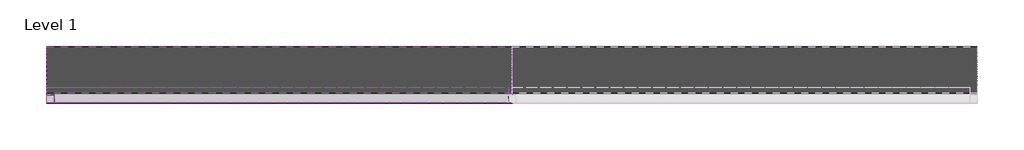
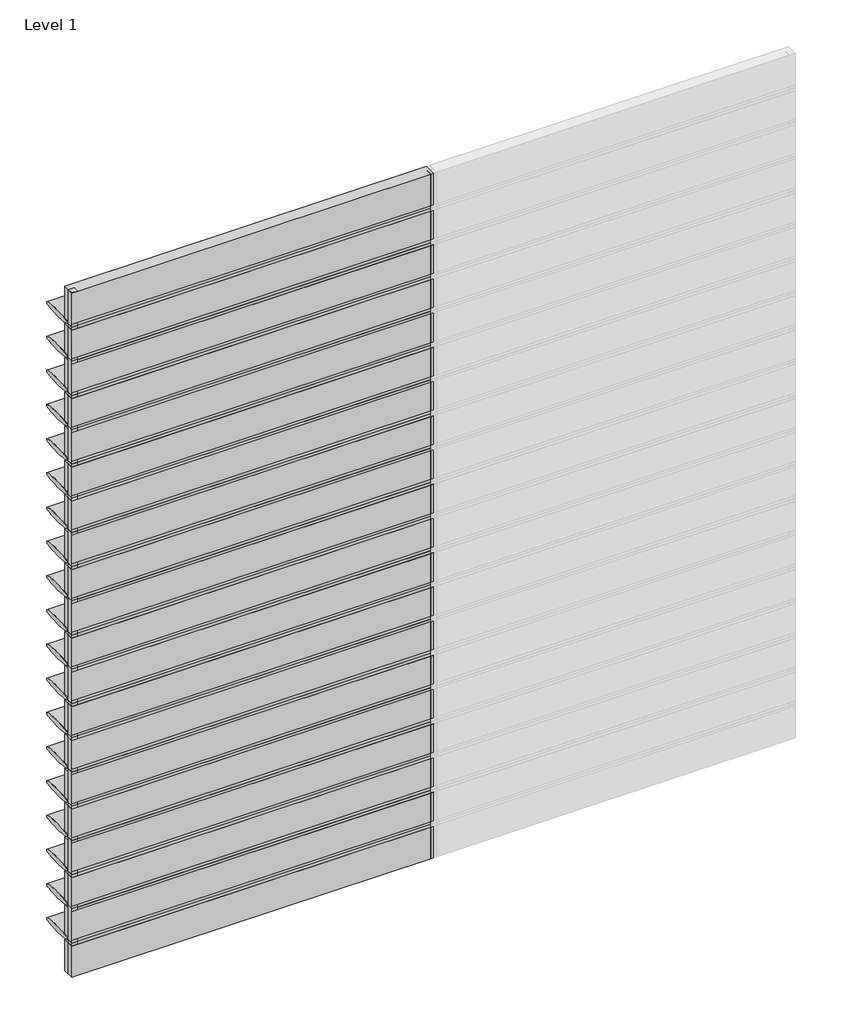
# One storey, part 1 of 2: 49 members, 40 plates.
"""IFC4 building model written with IfcOpenShell, lengths in millimetres."""

from ifc_helpers import new_model, si_unit, origin, place, context, project, spatial, transform, mapped, element, save
from components import rectangular_mullion_489e5dd7, rectangular_mullion_bcb65166, empty_system_panel_empty_2f02a19b, empty_system_panel_empty_759a0c1d, empty_system_panel_empty_080f249c

model = new_model("IFC4")

# Units and contexts
model_context = context("Model", 3, world=origin())
ifc_project = project(units=[si_unit("LENGTHUNIT", "METRE", prefix="MILLI")], contexts=[model_context])

# Site, building, storey
site = spatial("IfcSite", under=ifc_project)
building = spatial("IfcBuilding", under=site)
storey = spatial("IfcBuildingStorey", under=building, Name="Level 1", Elevation=0.0)

# Members
placement = place(None, origin())
rectangular_mullion_shape = rectangular_mullion_489e5dd7(model_context)
element("IfcMember", 1, ObjectType="Rectangular Mullion : RSen_21_CWM_blade - 300 ellips - 0°_gen_duco projects", at=placement, inside=storey, context=model_context, shape_type="MappedRepresentation", body=[
    mapped(rectangular_mullion_shape, transform((3000.0, 3000.0, 300.0), x_axis=(0.0, 0.0, 1.0), y_axis=(0.0, 1.0, 0.0), z_axis=(-1.0, 0.0, 0.0))),
])
element("IfcMember", 2, ObjectType="Rectangular Mullion : RSen_21_CWM_blade - 300 ellips - 0°_gen_duco projects", at=placement, inside=storey, context=model_context, shape_type="MappedRepresentation", body=[
    mapped(rectangular_mullion_shape, transform((3000.0, 3000.0, 600.0), x_axis=(0.0, 0.0, 1.0), y_axis=(0.0, 1.0, 0.0), z_axis=(-1.0, 0.0, 0.0))),
])
element("IfcMember", 3, ObjectType="Rectangular Mullion : RSen_21_CWM_blade - 300 ellips - 0°_gen_duco projects", at=placement, inside=storey, context=model_context, shape_type="MappedRepresentation", body=[
    mapped(rectangular_mullion_shape, transform((3000.0, 3000.0, 900.0), x_axis=(0.0, 0.0, 1.0), y_axis=(0.0, 1.0, 0.0), z_axis=(-1.0, 0.0, 0.0))),
])
element("IfcMember", 4, ObjectType="Rectangular Mullion : RSen_21_CWM_blade - 300 ellips - 0°_gen_duco projects", at=placement, inside=storey, context=model_context, shape_type="MappedRepresentation", body=[
    mapped(rectangular_mullion_shape, transform((3000.0, 3000.0, 1200.0), x_axis=(0.0, 0.0, 1.0), y_axis=(0.0, 1.0, 0.0), z_axis=(-1.0, 0.0, 0.0))),
])
element("IfcMember", 5, ObjectType="Rectangular Mullion : RSen_21_CWM_blade - 300 ellips - 0°_gen_duco projects", at=placement, inside=storey, context=model_context, shape_type="MappedRepresentation", body=[
    mapped(rectangular_mullion_shape, transform((3000.0, 3000.0, 1500.0), x_axis=(0.0, 0.0, 1.0), y_axis=(0.0, 1.0, 0.0), z_axis=(-1.0, 0.0, 0.0))),
])
element("IfcMember", 6, ObjectType="Rectangular Mullion : RSen_21_CWM_blade - 300 ellips - 0°_gen_duco projects", at=placement, inside=storey, context=model_context, shape_type="MappedRepresentation", body=[
    mapped(rectangular_mullion_shape, transform((3000.0, 3000.0, 1800.0), x_axis=(0.0, 0.0, 1.0), y_axis=(0.0, 1.0, 0.0), z_axis=(-1.0, 0.0, 0.0))),
])
element("IfcMember", 7, ObjectType="Rectangular Mullion : RSen_21_CWM_blade - 300 ellips - 0°_gen_duco projects", at=placement, inside=storey, context=model_context, shape_type="MappedRepresentation", body=[
    mapped(rectangular_mullion_shape, transform((3000.0, 3000.0, 2100.0), x_axis=(0.0, 0.0, 1.0), y_axis=(0.0, 1.0, 0.0), z_axis=(-1.0, 0.0, 0.0))),
])
element("IfcMember", 8, ObjectType="Rectangular Mullion : RSen_21_CWM_blade - 300 ellips - 0°_gen_duco projects", at=placement, inside=storey, context=model_context, shape_type="MappedRepresentation", body=[
    mapped(rectangular_mullion_shape, transform((3000.0, 3000.0, 2400.0), x_axis=(0.0, 0.0, 1.0), y_axis=(0.0, 1.0, 0.0), z_axis=(-1.0, 0.0, 0.0))),
])
element("IfcMember", 9, ObjectType="Rectangular Mullion : RSen_21_CWM_blade - 300 ellips - 0°_gen_duco projects", at=placement, inside=storey, context=model_context, shape_type="MappedRepresentation", body=[
    mapped(rectangular_mullion_shape, transform((3000.0, 3000.0, 2700.0), x_axis=(0.0, 0.0, 1.0), y_axis=(0.0, 1.0, 0.0), z_axis=(-1.0, 0.0, 0.0))),
])
element("IfcMember", 10, ObjectType="Rectangular Mullion : RSen_21_CWM_blade - 300 ellips - 0°_gen_duco projects", at=placement, inside=storey, context=model_context, shape_type="MappedRepresentation", body=[
    mapped(rectangular_mullion_shape, transform((3000.0, 3000.0, 3000.0), x_axis=(0.0, 0.0, 1.0), y_axis=(0.0, 1.0, 0.0), z_axis=(-1.0, 0.0, 0.0))),
])
element("IfcMember", 11, ObjectType="Rectangular Mullion : RSen_21_CWM_blade - 300 ellips - 0°_gen_duco projects", at=placement, inside=storey, context=model_context, shape_type="MappedRepresentation", body=[
    mapped(rectangular_mullion_shape, transform((0.0, 3000.0, 300.0), x_axis=(0.0, 0.0, 1.0), y_axis=(0.0, 1.0, 0.0), z_axis=(-1.0, 0.0, 0.0))),
])
element("IfcMember", 12, ObjectType="Rectangular Mullion : RSen_21_CWM_blade - 300 ellips - 0°_gen_duco projects", at=placement, inside=storey, context=model_context, shape_type="MappedRepresentation", body=[
    mapped(rectangular_mullion_shape, transform((0.0, 3000.0, 600.0), x_axis=(0.0, 0.0, 1.0), y_axis=(0.0, 1.0, 0.0), z_axis=(-1.0, 0.0, 0.0))),
])
element("IfcMember", 13, ObjectType="Rectangular Mullion : RSen_21_CWM_blade - 300 ellips - 0°_gen_duco projects", at=placement, inside=storey, context=model_context, shape_type="MappedRepresentation", body=[
    mapped(rectangular_mullion_shape, transform((0.0, 3000.0, 900.0), x_axis=(0.0, 0.0, 1.0), y_axis=(0.0, 1.0, 0.0), z_axis=(-1.0, 0.0, 0.0))),
])
element("IfcMember", 14, ObjectType="Rectangular Mullion : RSen_21_CWM_blade - 300 ellips - 0°_gen_duco projects", at=placement, inside=storey, context=model_context, shape_type="MappedRepresentation", body=[
    mapped(rectangular_mullion_shape, transform((0.0, 3000.0, 1200.0), x_axis=(0.0, 0.0, 1.0), y_axis=(0.0, 1.0, 0.0), z_axis=(-1.0, 0.0, 0.0))),
])
element("IfcMember", 15, ObjectType="Rectangular Mullion : RSen_21_CWM_blade - 300 ellips - 0°_gen_duco projects", at=placement, inside=storey, context=model_context, shape_type="MappedRepresentation", body=[
    mapped(rectangular_mullion_shape, transform((0.0, 3000.0, 1500.0), x_axis=(0.0, 0.0, 1.0), y_axis=(0.0, 1.0, 0.0), z_axis=(-1.0, 0.0, 0.0))),
])
element("IfcMember", 16, ObjectType="Rectangular Mullion : RSen_21_CWM_blade - 300 ellips - 0°_gen_duco projects", at=placement, inside=storey, context=model_context, shape_type="MappedRepresentation", body=[
    mapped(rectangular_mullion_shape, transform((0.0, 3000.0, 1800.0), x_axis=(0.0, 0.0, 1.0), y_axis=(0.0, 1.0, 0.0), z_axis=(-1.0, 0.0, 0.0))),
])
element("IfcMember", 17, ObjectType="Rectangular Mullion : RSen_21_CWM_blade - 300 ellips - 0°_gen_duco projects", at=placement, inside=storey, context=model_context, shape_type="MappedRepresentation", body=[
    mapped(rectangular_mullion_shape, transform((0.0, 3000.0, 2100.0), x_axis=(0.0, 0.0, 1.0), y_axis=(0.0, 1.0, 0.0), z_axis=(-1.0, 0.0, 0.0))),
])
element("IfcMember", 18, ObjectType="Rectangular Mullion : RSen_21_CWM_blade - 300 ellips - 0°_gen_duco projects", at=placement, inside=storey, context=model_context, shape_type="MappedRepresentation", body=[
    mapped(rectangular_mullion_shape, transform((0.0, 3000.0, 2400.0), x_axis=(0.0, 0.0, 1.0), y_axis=(0.0, 1.0, 0.0), z_axis=(-1.0, 0.0, 0.0))),
])
element("IfcMember", 19, ObjectType="Rectangular Mullion : RSen_21_CWM_blade - 300 ellips - 0°_gen_duco projects", at=placement, inside=storey, context=model_context, shape_type="MappedRepresentation", body=[
    mapped(rectangular_mullion_shape, transform((0.0, 3000.0, 2700.0), x_axis=(0.0, 0.0, 1.0), y_axis=(0.0, 1.0, 0.0), z_axis=(-1.0, 0.0, 0.0))),
])
element("IfcMember", 20, ObjectType="Rectangular Mullion : RSen_21_CWM_blade - 300 ellips - 0°_gen_duco projects", at=placement, inside=storey, context=model_context, shape_type="MappedRepresentation", body=[
    mapped(rectangular_mullion_shape, transform((0.0, 3000.0, 3000.0), x_axis=(0.0, 0.0, 1.0), y_axis=(0.0, 1.0, 0.0), z_axis=(-1.0, 0.0, 0.0))),
])
element("IfcMember", 21, ObjectType="Rectangular Mullion : RSen_21_CWM_blade - 300 ellips - 0°_gen_duco projects", at=placement, inside=storey, context=model_context, shape_type="MappedRepresentation", body=[
    mapped(rectangular_mullion_shape, transform((0.0, 3000.0, 3300.0), x_axis=(0.0, 0.0, 1.0), y_axis=(0.0, 1.0, 0.0), z_axis=(-1.0, 0.0, 0.0))),
])
element("IfcMember", 22, ObjectType="Rectangular Mullion : RSen_21_CWM_blade - 300 ellips - 0°_gen_duco projects", at=placement, inside=storey, context=model_context, shape_type="MappedRepresentation", body=[
    mapped(rectangular_mullion_shape, transform((0.0, 3000.0, 3600.0), x_axis=(0.0, 0.0, 1.0), y_axis=(0.0, 1.0, 0.0), z_axis=(-1.0, 0.0, 0.0))),
])
element("IfcMember", 23, ObjectType="Rectangular Mullion : RSen_21_CWM_blade - 300 ellips - 0°_gen_duco projects", at=placement, inside=storey, context=model_context, shape_type="MappedRepresentation", body=[
    mapped(rectangular_mullion_shape, transform((0.0, 3000.0, 3900.0), x_axis=(0.0, 0.0, 1.0), y_axis=(0.0, 1.0, 0.0), z_axis=(-1.0, 0.0, 0.0))),
])
element("IfcMember", 24, ObjectType="Rectangular Mullion : RSen_21_CWM_blade - 300 ellips - 0°_gen_duco projects", at=placement, inside=storey, context=model_context, shape_type="MappedRepresentation", body=[
    mapped(rectangular_mullion_shape, transform((0.0, 3000.0, 4200.0), x_axis=(0.0, 0.0, 1.0), y_axis=(0.0, 1.0, 0.0), z_axis=(-1.0, 0.0, 0.0))),
])
element("IfcMember", 25, ObjectType="Rectangular Mullion : RSen_21_CWM_blade - 300 ellips - 0°_gen_duco projects", at=placement, inside=storey, context=model_context, shape_type="MappedRepresentation", body=[
    mapped(rectangular_mullion_shape, transform((0.0, 3000.0, 4500.0), x_axis=(0.0, 0.0, 1.0), y_axis=(0.0, 1.0, 0.0), z_axis=(-1.0, 0.0, 0.0))),
])
element("IfcMember", 26, ObjectType="Rectangular Mullion : RSen_21_CWM_blade - 300 ellips - 0°_gen_duco projects", at=placement, inside=storey, context=model_context, shape_type="MappedRepresentation", body=[
    mapped(rectangular_mullion_shape, transform((0.0, 3000.0, 4800.0), x_axis=(0.0, 0.0, 1.0), y_axis=(0.0, 1.0, 0.0), z_axis=(-1.0, 0.0, 0.0))),
])
element("IfcMember", 27, ObjectType="Rectangular Mullion : RSen_21_CWM_blade - 300 ellips - 0°_gen_duco projects", at=placement, inside=storey, context=model_context, shape_type="MappedRepresentation", body=[
    mapped(rectangular_mullion_shape, transform((0.0, 3000.0, 5100.0), x_axis=(0.0, 0.0, 1.0), y_axis=(0.0, 1.0, 0.0), z_axis=(-1.0, 0.0, 0.0))),
])
element("IfcMember", 28, ObjectType="Rectangular Mullion : RSen_21_CWM_blade - 300 ellips - 0°_gen_duco projects", at=placement, inside=storey, context=model_context, shape_type="MappedRepresentation", body=[
    mapped(rectangular_mullion_shape, transform((0.0, 3000.0, 5400.0), x_axis=(0.0, 0.0, 1.0), y_axis=(0.0, 1.0, 0.0), z_axis=(-1.0, 0.0, 0.0))),
])
element("IfcMember", 29, ObjectType="Rectangular Mullion : RSen_21_CWM_blade - 300 ellips - 0°_gen_duco projects", at=placement, inside=storey, context=model_context, shape_type="MappedRepresentation", body=[
    mapped(rectangular_mullion_shape, transform((0.0, 3000.0, 5700.0), x_axis=(0.0, 0.0, 1.0), y_axis=(0.0, 1.0, 0.0), z_axis=(-1.0, 0.0, 0.0))),
])
rectangular_mullion_2_shape = rectangular_mullion_bcb65166(model_context)
element("IfcMember", 30, ObjectType="Rectangular Mullion : RSen_21_CWM_support profile 50x50 - left_gen_duco projects", at=placement, inside=storey, context=model_context, shape_type="MappedRepresentation", body=[
    mapped(rectangular_mullion_2_shape, transform((0.0, 3000.0, 0.0), x_axis=(-1.0, 0.0, 0.0), y_axis=(0.0, 1.0, 0.0), z_axis=(0.0, 0.0, -1.0))),
])
element("IfcMember", 31, ObjectType="Rectangular Mullion : RSen_21_CWM_support profile 50x50 - left_gen_duco projects", at=placement, inside=storey, context=model_context, shape_type="MappedRepresentation", body=[
    mapped(rectangular_mullion_2_shape, transform((0.0, 3000.0, 300.0), x_axis=(-1.0, 0.0, 0.0), y_axis=(0.0, 1.0, 0.0), z_axis=(0.0, 0.0, -1.0))),
])
element("IfcMember", 32, ObjectType="Rectangular Mullion : RSen_21_CWM_support profile 50x50 - left_gen_duco projects", at=placement, inside=storey, context=model_context, shape_type="MappedRepresentation", body=[
    mapped(rectangular_mullion_2_shape, transform((0.0, 3000.0, 600.0), x_axis=(-1.0, 0.0, 0.0), y_axis=(0.0, 1.0, 0.0), z_axis=(0.0, 0.0, -1.0))),
])
element("IfcMember", 33, ObjectType="Rectangular Mullion : RSen_21_CWM_support profile 50x50 - left_gen_duco projects", at=placement, inside=storey, context=model_context, shape_type="MappedRepresentation", body=[
    mapped(rectangular_mullion_2_shape, transform((0.0, 3000.0, 900.0), x_axis=(-1.0, 0.0, 0.0), y_axis=(0.0, 1.0, 0.0), z_axis=(0.0, 0.0, -1.0))),
])
element("IfcMember", 34, ObjectType="Rectangular Mullion : RSen_21_CWM_support profile 50x50 - left_gen_duco projects", at=placement, inside=storey, context=model_context, shape_type="MappedRepresentation", body=[
    mapped(rectangular_mullion_2_shape, transform((0.0, 3000.0, 1200.0), x_axis=(-1.0, 0.0, 0.0), y_axis=(0.0, 1.0, 0.0), z_axis=(0.0, 0.0, -1.0))),
])
element("IfcMember", 35, ObjectType="Rectangular Mullion : RSen_21_CWM_support profile 50x50 - left_gen_duco projects", at=placement, inside=storey, context=model_context, shape_type="MappedRepresentation", body=[
    mapped(rectangular_mullion_2_shape, transform((0.0, 3000.0, 1500.0), x_axis=(-1.0, 0.0, 0.0), y_axis=(0.0, 1.0, 0.0), z_axis=(0.0, 0.0, -1.0))),
])
element("IfcMember", 36, ObjectType="Rectangular Mullion : RSen_21_CWM_support profile 50x50 - left_gen_duco projects", at=placement, inside=storey, context=model_context, shape_type="MappedRepresentation", body=[
    mapped(rectangular_mullion_2_shape, transform((0.0, 3000.0, 1800.0), x_axis=(-1.0, 0.0, 0.0), y_axis=(0.0, 1.0, 0.0), z_axis=(0.0, 0.0, -1.0))),
])
element("IfcMember", 37, ObjectType="Rectangular Mullion : RSen_21_CWM_support profile 50x50 - left_gen_duco projects", at=placement, inside=storey, context=model_context, shape_type="MappedRepresentation", body=[
    mapped(rectangular_mullion_2_shape, transform((0.0, 3000.0, 2100.0), x_axis=(-1.0, 0.0, 0.0), y_axis=(0.0, 1.0, 0.0), z_axis=(0.0, 0.0, -1.0))),
])
element("IfcMember", 38, ObjectType="Rectangular Mullion : RSen_21_CWM_support profile 50x50 - left_gen_duco projects", at=placement, inside=storey, context=model_context, shape_type="MappedRepresentation", body=[
    mapped(rectangular_mullion_2_shape, transform((0.0, 3000.0, 2400.0), x_axis=(-1.0, 0.0, 0.0), y_axis=(0.0, 1.0, 0.0), z_axis=(0.0, 0.0, -1.0))),
])
element("IfcMember", 39, ObjectType="Rectangular Mullion : RSen_21_CWM_support profile 50x50 - left_gen_duco projects", at=placement, inside=storey, context=model_context, shape_type="MappedRepresentation", body=[
    mapped(rectangular_mullion_2_shape, transform((0.0, 3000.0, 2700.0), x_axis=(-1.0, 0.0, 0.0), y_axis=(0.0, 1.0, 0.0), z_axis=(0.0, 0.0, -1.0))),
])
element("IfcMember", 40, ObjectType="Rectangular Mullion : RSen_21_CWM_support profile 50x50 - left_gen_duco projects", at=placement, inside=storey, context=model_context, shape_type="MappedRepresentation", body=[
    mapped(rectangular_mullion_2_shape, transform((0.0, 3000.0, 3000.0), x_axis=(-1.0, 0.0, 0.0), y_axis=(0.0, 1.0, 0.0), z_axis=(0.0, 0.0, -1.0))),
])
element("IfcMember", 41, ObjectType="Rectangular Mullion : RSen_21_CWM_support profile 50x50 - left_gen_duco projects", at=placement, inside=storey, context=model_context, shape_type="MappedRepresentation", body=[
    mapped(rectangular_mullion_2_shape, transform((0.0, 3000.0, 3300.0), x_axis=(-1.0, 0.0, 0.0), y_axis=(0.0, 1.0, 0.0), z_axis=(0.0, 0.0, -1.0))),
])
element("IfcMember", 42, ObjectType="Rectangular Mullion : RSen_21_CWM_support profile 50x50 - left_gen_duco projects", at=placement, inside=storey, context=model_context, shape_type="MappedRepresentation", body=[
    mapped(rectangular_mullion_2_shape, transform((0.0, 3000.0, 3600.0), x_axis=(-1.0, 0.0, 0.0), y_axis=(0.0, 1.0, 0.0), z_axis=(0.0, 0.0, -1.0))),
])
element("IfcMember", 43, ObjectType="Rectangular Mullion : RSen_21_CWM_support profile 50x50 - left_gen_duco projects", at=placement, inside=storey, context=model_context, shape_type="MappedRepresentation", body=[
    mapped(rectangular_mullion_2_shape, transform((0.0, 3000.0, 3900.0), x_axis=(-1.0, 0.0, 0.0), y_axis=(0.0, 1.0, 0.0), z_axis=(0.0, 0.0, -1.0))),
])
element("IfcMember", 44, ObjectType="Rectangular Mullion : RSen_21_CWM_support profile 50x50 - left_gen_duco projects", at=placement, inside=storey, context=model_context, shape_type="MappedRepresentation", body=[
    mapped(rectangular_mullion_2_shape, transform((0.0, 3000.0, 4200.0), x_axis=(-1.0, 0.0, 0.0), y_axis=(0.0, 1.0, 0.0), z_axis=(0.0, 0.0, -1.0))),
])
element("IfcMember", 45, ObjectType="Rectangular Mullion : RSen_21_CWM_support profile 50x50 - left_gen_duco projects", at=placement, inside=storey, context=model_context, shape_type="MappedRepresentation", body=[
    mapped(rectangular_mullion_2_shape, transform((0.0, 3000.0, 4500.0), x_axis=(-1.0, 0.0, 0.0), y_axis=(0.0, 1.0, 0.0), z_axis=(0.0, 0.0, -1.0))),
])
element("IfcMember", 46, ObjectType="Rectangular Mullion : RSen_21_CWM_support profile 50x50 - left_gen_duco projects", at=placement, inside=storey, context=model_context, shape_type="MappedRepresentation", body=[
    mapped(rectangular_mullion_2_shape, transform((0.0, 3000.0, 4800.0), x_axis=(-1.0, 0.0, 0.0), y_axis=(0.0, 1.0, 0.0), z_axis=(0.0, 0.0, -1.0))),
])
element("IfcMember", 47, ObjectType="Rectangular Mullion : RSen_21_CWM_support profile 50x50 - left_gen_duco projects", at=placement, inside=storey, context=model_context, shape_type="MappedRepresentation", body=[
    mapped(rectangular_mullion_2_shape, transform((0.0, 3000.0, 5100.0), x_axis=(-1.0, 0.0, 0.0), y_axis=(0.0, 1.0, 0.0), z_axis=(0.0, 0.0, -1.0))),
])
element("IfcMember", 48, ObjectType="Rectangular Mullion : RSen_21_CWM_support profile 50x50 - left_gen_duco projects", at=placement, inside=storey, context=model_context, shape_type="MappedRepresentation", body=[
    mapped(rectangular_mullion_2_shape, transform((0.0, 3000.0, 5400.0), x_axis=(-1.0, 0.0, 0.0), y_axis=(0.0, 1.0, 0.0), z_axis=(0.0, 0.0, -1.0))),
])
element("IfcMember", 49, ObjectType="Rectangular Mullion : RSen_21_CWM_support profile 50x50 - left_gen_duco projects", at=placement, inside=storey, context=model_context, shape_type="MappedRepresentation", body=[
    mapped(rectangular_mullion_2_shape, transform((0.0, 3000.0, 5700.0), x_axis=(-1.0, 0.0, 0.0), y_axis=(0.0, 1.0, 0.0), z_axis=(0.0, 0.0, -1.0))),
])

# Plates
empty_system_panel_empty_shape = empty_system_panel_empty_2f02a19b(model_context)
element("IfcPlate", 50, ObjectType="Empty System Panel : Empty", at=placement, inside=storey, context=model_context, shape_type="MappedRepresentation", body=[
    mapped(empty_system_panel_empty_shape, transform((1500.0, 3000.0, 0.0), x_axis=(-1.0, 0.0, 0.0), y_axis=(0.0, -1.0, 0.0), z_axis=(0.0, 0.0, 1.0))),
])
element("IfcPlate", 51, ObjectType="Empty System Panel : Empty", at=placement, inside=storey, context=model_context, shape_type="MappedRepresentation", body=[
    mapped(empty_system_panel_empty_shape, transform((1500.0, 3000.0, 5725.0), x_axis=(-1.0, 0.0, 0.0), y_axis=(0.0, -1.0, 0.0), z_axis=(0.0, 0.0, 1.0))),
])
empty_system_panel_empty_2_shape = empty_system_panel_empty_759a0c1d(model_context)
element("IfcPlate", 52, ObjectType="Empty System Panel : Empty", at=placement, inside=storey, context=model_context, shape_type="MappedRepresentation", body=[
    mapped(empty_system_panel_empty_2_shape, transform((1500.0, 3000.0, 325.0), x_axis=(-1.0, 0.0, 0.0), y_axis=(0.0, -1.0, 0.0), z_axis=(0.0, 0.0, 1.0))),
])
element("IfcPlate", 53, ObjectType="Empty System Panel : Empty", at=placement, inside=storey, context=model_context, shape_type="MappedRepresentation", body=[
    mapped(empty_system_panel_empty_2_shape, transform((1500.0, 3000.0, 625.0), x_axis=(-1.0, 0.0, 0.0), y_axis=(0.0, -1.0, 0.0), z_axis=(0.0, 0.0, 1.0))),
])
element("IfcPlate", 54, ObjectType="Empty System Panel : Empty", at=placement, inside=storey, context=model_context, shape_type="MappedRepresentation", body=[
    mapped(empty_system_panel_empty_2_shape, transform((1500.0, 3000.0, 925.0), x_axis=(-1.0, 0.0, 0.0), y_axis=(0.0, -1.0, 0.0), z_axis=(0.0, 0.0, 1.0))),
])
element("IfcPlate", 55, ObjectType="Empty System Panel : Empty", at=placement, inside=storey, context=model_context, shape_type="MappedRepresentation", body=[
    mapped(empty_system_panel_empty_2_shape, transform((1500.0, 3000.0, 1225.0), x_axis=(-1.0, 0.0, 0.0), y_axis=(0.0, -1.0, 0.0), z_axis=(0.0, 0.0, 1.0))),
])
element("IfcPlate", 56, ObjectType="Empty System Panel : Empty", at=placement, inside=storey, context=model_context, shape_type="MappedRepresentation", body=[
    mapped(empty_system_panel_empty_2_shape, transform((1500.0, 3000.0, 1525.0), x_axis=(-1.0, 0.0, 0.0), y_axis=(0.0, -1.0, 0.0), z_axis=(0.0, 0.0, 1.0))),
])
element("IfcPlate", 57, ObjectType="Empty System Panel : Empty", at=placement, inside=storey, context=model_context, shape_type="MappedRepresentation", body=[
    mapped(empty_system_panel_empty_2_shape, transform((1500.0, 3000.0, 1825.0), x_axis=(-1.0, 0.0, 0.0), y_axis=(0.0, -1.0, 0.0), z_axis=(0.0, 0.0, 1.0))),
])
element("IfcPlate", 58, ObjectType="Empty System Panel : Empty", at=placement, inside=storey, context=model_context, shape_type="MappedRepresentation", body=[
    mapped(empty_system_panel_empty_2_shape, transform((1500.0, 3000.0, 2125.0), x_axis=(-1.0, 0.0, 0.0), y_axis=(0.0, -1.0, 0.0), z_axis=(0.0, 0.0, 1.0))),
])
element("IfcPlate", 59, ObjectType="Empty System Panel : Empty", at=placement, inside=storey, context=model_context, shape_type="MappedRepresentation", body=[
    mapped(empty_system_panel_empty_2_shape, transform((1500.0, 3000.0, 2425.0), x_axis=(-1.0, 0.0, 0.0), y_axis=(0.0, -1.0, 0.0), z_axis=(0.0, 0.0, 1.0))),
])
element("IfcPlate", 60, ObjectType="Empty System Panel : Empty", at=placement, inside=storey, context=model_context, shape_type="MappedRepresentation", body=[
    mapped(empty_system_panel_empty_2_shape, transform((1500.0, 3000.0, 2725.0), x_axis=(-1.0, 0.0, 0.0), y_axis=(0.0, -1.0, 0.0), z_axis=(0.0, 0.0, 1.0))),
])
element("IfcPlate", 61, ObjectType="Empty System Panel : Empty", at=placement, inside=storey, context=model_context, shape_type="MappedRepresentation", body=[
    mapped(empty_system_panel_empty_2_shape, transform((1500.0, 3000.0, 3025.0), x_axis=(-1.0, 0.0, 0.0), y_axis=(0.0, -1.0, 0.0), z_axis=(0.0, 0.0, 1.0))),
])
element("IfcPlate", 62, ObjectType="Empty System Panel : Empty", at=placement, inside=storey, context=model_context, shape_type="MappedRepresentation", body=[
    mapped(empty_system_panel_empty_2_shape, transform((1500.0, 3000.0, 3325.0), x_axis=(-1.0, 0.0, 0.0), y_axis=(0.0, -1.0, 0.0), z_axis=(0.0, 0.0, 1.0))),
])
element("IfcPlate", 63, ObjectType="Empty System Panel : Empty", at=placement, inside=storey, context=model_context, shape_type="MappedRepresentation", body=[
    mapped(empty_system_panel_empty_2_shape, transform((1500.0, 3000.0, 3625.0), x_axis=(-1.0, 0.0, 0.0), y_axis=(0.0, -1.0, 0.0), z_axis=(0.0, 0.0, 1.0))),
])
element("IfcPlate", 64, ObjectType="Empty System Panel : Empty", at=placement, inside=storey, context=model_context, shape_type="MappedRepresentation", body=[
    mapped(empty_system_panel_empty_2_shape, transform((1500.0, 3000.0, 3925.0), x_axis=(-1.0, 0.0, 0.0), y_axis=(0.0, -1.0, 0.0), z_axis=(0.0, 0.0, 1.0))),
])
element("IfcPlate", 65, ObjectType="Empty System Panel : Empty", at=placement, inside=storey, context=model_context, shape_type="MappedRepresentation", body=[
    mapped(empty_system_panel_empty_2_shape, transform((1500.0, 3000.0, 4225.0), x_axis=(-1.0, 0.0, 0.0), y_axis=(0.0, -1.0, 0.0), z_axis=(0.0, 0.0, 1.0))),
])
element("IfcPlate", 66, ObjectType="Empty System Panel : Empty", at=placement, inside=storey, context=model_context, shape_type="MappedRepresentation", body=[
    mapped(empty_system_panel_empty_2_shape, transform((1500.0, 3000.0, 4525.0), x_axis=(-1.0, 0.0, 0.0), y_axis=(0.0, -1.0, 0.0), z_axis=(0.0, 0.0, 1.0))),
])
element("IfcPlate", 67, ObjectType="Empty System Panel : Empty", at=placement, inside=storey, context=model_context, shape_type="MappedRepresentation", body=[
    mapped(empty_system_panel_empty_2_shape, transform((1500.0, 3000.0, 4825.0), x_axis=(-1.0, 0.0, 0.0), y_axis=(0.0, -1.0, 0.0), z_axis=(0.0, 0.0, 1.0))),
])
element("IfcPlate", 68, ObjectType="Empty System Panel : Empty", at=placement, inside=storey, context=model_context, shape_type="MappedRepresentation", body=[
    mapped(empty_system_panel_empty_2_shape, transform((1500.0, 3000.0, 5125.0), x_axis=(-1.0, 0.0, 0.0), y_axis=(0.0, -1.0, 0.0), z_axis=(0.0, 0.0, 1.0))),
])
element("IfcPlate", 69, ObjectType="Empty System Panel : Empty", at=placement, inside=storey, context=model_context, shape_type="MappedRepresentation", body=[
    mapped(empty_system_panel_empty_2_shape, transform((1500.0, 3000.0, 5425.0), x_axis=(-1.0, 0.0, 0.0), y_axis=(0.0, -1.0, 0.0), z_axis=(0.0, 0.0, 1.0))),
])
empty_system_panel_empty_3_shape = empty_system_panel_empty_080f249c(model_context)
element("IfcPlate", 70, ObjectType="Empty System Panel : Empty", at=placement, inside=storey, context=model_context, shape_type="MappedRepresentation", body=[
    mapped(empty_system_panel_empty_3_shape, transform((1512.5, 3000.0, 0.0), x_axis=(-1.0, 0.0, 0.0), y_axis=(0.0, -1.0, 0.0), z_axis=(0.0, 0.0, 1.0))),
])
element("IfcPlate", 71, ObjectType="Empty System Panel : Empty", at=placement, inside=storey, context=model_context, shape_type="MappedRepresentation", body=[
    mapped(empty_system_panel_empty_3_shape, transform((1512.5, 3000.0, 300.0), x_axis=(-1.0, 0.0, 0.0), y_axis=(0.0, -1.0, 0.0), z_axis=(0.0, 0.0, 1.0))),
])
element("IfcPlate", 72, ObjectType="Empty System Panel : Empty", at=placement, inside=storey, context=model_context, shape_type="MappedRepresentation", body=[
    mapped(empty_system_panel_empty_3_shape, transform((1512.5, 3000.0, 600.0), x_axis=(-1.0, 0.0, 0.0), y_axis=(0.0, -1.0, 0.0), z_axis=(0.0, 0.0, 1.0))),
])
element("IfcPlate", 73, ObjectType="Empty System Panel : Empty", at=placement, inside=storey, context=model_context, shape_type="MappedRepresentation", body=[
    mapped(empty_system_panel_empty_3_shape, transform((1512.5, 3000.0, 900.0), x_axis=(-1.0, 0.0, 0.0), y_axis=(0.0, -1.0, 0.0), z_axis=(0.0, 0.0, 1.0))),
])
element("IfcPlate", 74, ObjectType="Empty System Panel : Empty", at=placement, inside=storey, context=model_context, shape_type="MappedRepresentation", body=[
    mapped(empty_system_panel_empty_3_shape, transform((1512.5, 3000.0, 1200.0), x_axis=(-1.0, 0.0, 0.0), y_axis=(0.0, -1.0, 0.0), z_axis=(0.0, 0.0, 1.0))),
])
element("IfcPlate", 75, ObjectType="Empty System Panel : Empty", at=placement, inside=storey, context=model_context, shape_type="MappedRepresentation", body=[
    mapped(empty_system_panel_empty_3_shape, transform((1512.5, 3000.0, 1500.0), x_axis=(-1.0, 0.0, 0.0), y_axis=(0.0, -1.0, 0.0), z_axis=(0.0, 0.0, 1.0))),
])
element("IfcPlate", 76, ObjectType="Empty System Panel : Empty", at=placement, inside=storey, context=model_context, shape_type="MappedRepresentation", body=[
    mapped(empty_system_panel_empty_3_shape, transform((1512.5, 3000.0, 1800.0), x_axis=(-1.0, 0.0, 0.0), y_axis=(0.0, -1.0, 0.0), z_axis=(0.0, 0.0, 1.0))),
])
element("IfcPlate", 77, ObjectType="Empty System Panel : Empty", at=placement, inside=storey, context=model_context, shape_type="MappedRepresentation", body=[
    mapped(empty_system_panel_empty_3_shape, transform((1512.5, 3000.0, 2100.0), x_axis=(-1.0, 0.0, 0.0), y_axis=(0.0, -1.0, 0.0), z_axis=(0.0, 0.0, 1.0))),
])
element("IfcPlate", 78, ObjectType="Empty System Panel : Empty", at=placement, inside=storey, context=model_context, shape_type="MappedRepresentation", body=[
    mapped(empty_system_panel_empty_3_shape, transform((1512.5, 3000.0, 2400.0), x_axis=(-1.0, 0.0, 0.0), y_axis=(0.0, -1.0, 0.0), z_axis=(0.0, 0.0, 1.0))),
])
element("IfcPlate", 79, ObjectType="Empty System Panel : Empty", at=placement, inside=storey, context=model_context, shape_type="MappedRepresentation", body=[
    mapped(empty_system_panel_empty_3_shape, transform((1512.5, 3000.0, 2700.0), x_axis=(-1.0, 0.0, 0.0), y_axis=(0.0, -1.0, 0.0), z_axis=(0.0, 0.0, 1.0))),
])
element("IfcPlate", 80, ObjectType="Empty System Panel : Empty", at=placement, inside=storey, context=model_context, shape_type="MappedRepresentation", body=[
    mapped(empty_system_panel_empty_3_shape, transform((1512.5, 3000.0, 3000.0), x_axis=(-1.0, 0.0, 0.0), y_axis=(0.0, -1.0, 0.0), z_axis=(0.0, 0.0, 1.0))),
])
element("IfcPlate", 81, ObjectType="Empty System Panel : Empty", at=placement, inside=storey, context=model_context, shape_type="MappedRepresentation", body=[
    mapped(empty_system_panel_empty_3_shape, transform((1512.5, 3000.0, 3300.0), x_axis=(-1.0, 0.0, 0.0), y_axis=(0.0, -1.0, 0.0), z_axis=(0.0, 0.0, 1.0))),
])
element("IfcPlate", 82, ObjectType="Empty System Panel : Empty", at=placement, inside=storey, context=model_context, shape_type="MappedRepresentation", body=[
    mapped(empty_system_panel_empty_3_shape, transform((1512.5, 3000.0, 3600.0), x_axis=(-1.0, 0.0, 0.0), y_axis=(0.0, -1.0, 0.0), z_axis=(0.0, 0.0, 1.0))),
])
element("IfcPlate", 83, ObjectType="Empty System Panel : Empty", at=placement, inside=storey, context=model_context, shape_type="MappedRepresentation", body=[
    mapped(empty_system_panel_empty_3_shape, transform((1512.5, 3000.0, 3900.0), x_axis=(-1.0, 0.0, 0.0), y_axis=(0.0, -1.0, 0.0), z_axis=(0.0, 0.0, 1.0))),
])
element("IfcPlate", 84, ObjectType="Empty System Panel : Empty", at=placement, inside=storey, context=model_context, shape_type="MappedRepresentation", body=[
    mapped(empty_system_panel_empty_3_shape, transform((1512.5, 3000.0, 4200.0), x_axis=(-1.0, 0.0, 0.0), y_axis=(0.0, -1.0, 0.0), z_axis=(0.0, 0.0, 1.0))),
])
element("IfcPlate", 85, ObjectType="Empty System Panel : Empty", at=placement, inside=storey, context=model_context, shape_type="MappedRepresentation", body=[
    mapped(empty_system_panel_empty_3_shape, transform((1512.5, 3000.0, 4500.0), x_axis=(-1.0, 0.0, 0.0), y_axis=(0.0, -1.0, 0.0), z_axis=(0.0, 0.0, 1.0))),
])
element("IfcPlate", 86, ObjectType="Empty System Panel : Empty", at=placement, inside=storey, context=model_context, shape_type="MappedRepresentation", body=[
    mapped(empty_system_panel_empty_3_shape, transform((1512.5, 3000.0, 4800.0), x_axis=(-1.0, 0.0, 0.0), y_axis=(0.0, -1.0, 0.0), z_axis=(0.0, 0.0, 1.0))),
])
element("IfcPlate", 87, ObjectType="Empty System Panel : Empty", at=placement, inside=storey, context=model_context, shape_type="MappedRepresentation", body=[
    mapped(empty_system_panel_empty_3_shape, transform((1512.5, 3000.0, 5100.0), x_axis=(-1.0, 0.0, 0.0), y_axis=(0.0, -1.0, 0.0), z_axis=(0.0, 0.0, 1.0))),
])
element("IfcPlate", 88, ObjectType="Empty System Panel : Empty", at=placement, inside=storey, context=model_context, shape_type="MappedRepresentation", body=[
    mapped(empty_system_panel_empty_3_shape, transform((1512.5, 3000.0, 5400.0), x_axis=(-1.0, 0.0, 0.0), y_axis=(0.0, -1.0, 0.0), z_axis=(0.0, 0.0, 1.0))),
])
element("IfcPlate", 89, ObjectType="Empty System Panel : Empty", at=placement, inside=storey, context=model_context, shape_type="MappedRepresentation", body=[
    mapped(empty_system_panel_empty_3_shape, transform((1512.5, 3000.0, 5700.0), x_axis=(-1.0, 0.0, 0.0), y_axis=(0.0, -1.0, 0.0), z_axis=(0.0, 0.0, 1.0))),
])

save(model, "model.ifc")
